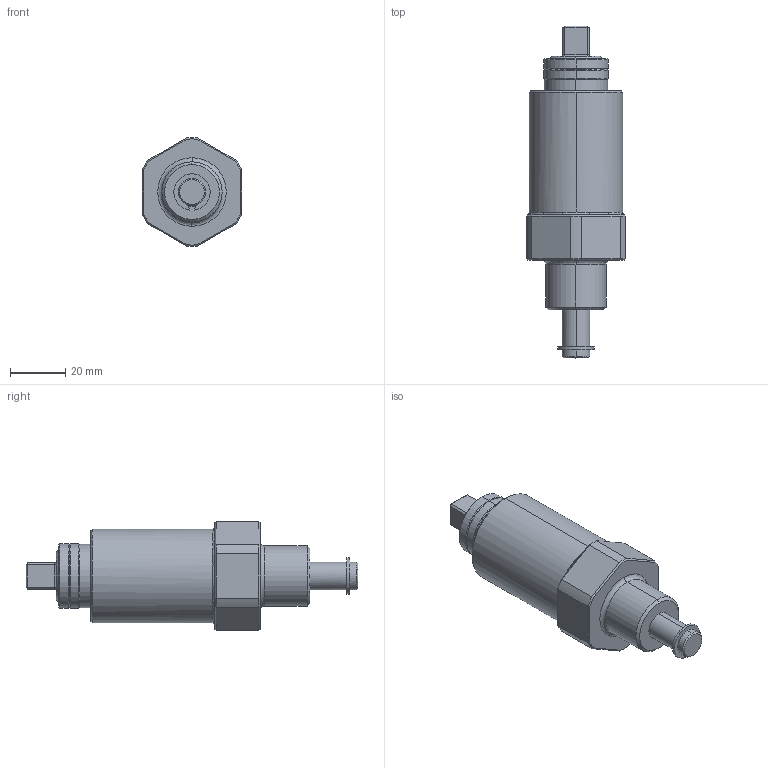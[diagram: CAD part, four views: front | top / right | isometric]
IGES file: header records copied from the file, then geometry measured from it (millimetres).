
Start section:  PTC IGES file: 6159363800_dim.igs
Global section: file name: 6159363800_dim.igs; native system: Creo Parametric by PTC Inc.; preprocessor: 2019080; author: gre_svc_itools; organization: Unknown; date: 20200618.085424; units: millimetre
Bounding box: 36 x 120.5 x 39.48 mm (x, y, z)
Surface area: 23475.1 mm2 (no closed solid volume)
Topology: 0 solids, 0 shells, 225 faces, 1042 edges, 1042 vertices
Faces by surface type: revolution 153, bspline 72
